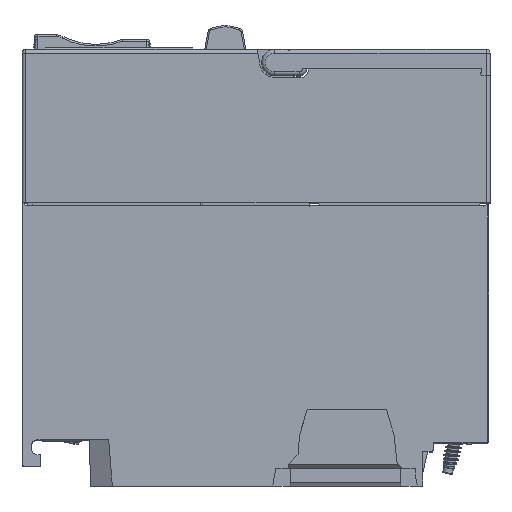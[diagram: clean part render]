
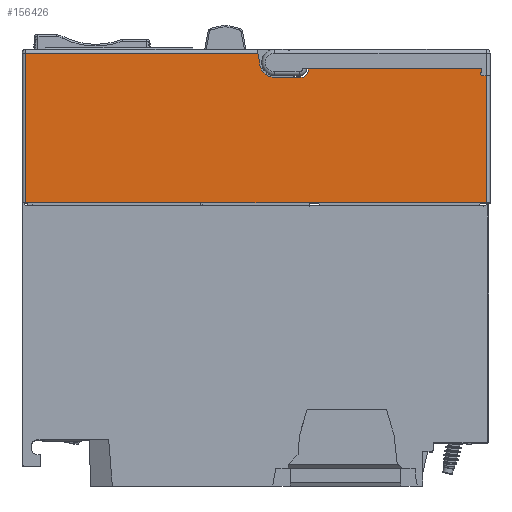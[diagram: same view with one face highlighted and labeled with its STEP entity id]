
A CAD part, top view. The second image highlights one B-rep face of the part: STEP entity #156426.
In plain terms, the highlighted planar face has unit normal (0, 0, 1).
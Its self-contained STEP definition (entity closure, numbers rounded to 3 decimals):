
#145177=DIRECTION('',(0.174,-0.985,0.));
#145178=VECTOR('',#145177,3.244);
#145179=CARTESIAN_POINT('',(0.697,115.6,19.9));
#145180=LINE('',#145179,#145178);
#145181=CARTESIAN_POINT('',(5.2,113.1,19.9));
#145182=DIRECTION('',(0.,0.,1.));
#145183=DIRECTION('',(-0.985,-0.174,0.));
#145184=AXIS2_PLACEMENT_3D('',#145181,#145182,#145183);
#145186=DIRECTION('',(1.,0.,0.));
#145187=VECTOR('',#145186,7.);
#145188=CARTESIAN_POINT('',(5.2,109.1,19.9));
#145189=LINE('',#145188,#145187);
#145190=CARTESIAN_POINT('',(12.2,111.1,19.9));
#145191=DIRECTION('',(0.,0.,1.));
#145192=DIRECTION('',(0.,-1.,0.));
#145193=AXIS2_PLACEMENT_3D('',#145190,#145191,#145192);
#145195=DIRECTION('',(0.,1.,0.));
#145196=VECTOR('',#145195,0.4);
#145197=CARTESIAN_POINT('',(14.2,111.1,19.9));
#145198=LINE('',#145197,#145196);
#145199=DIRECTION('',(1.,0.,0.));
#145200=VECTOR('',#145199,46.096);
#145201=CARTESIAN_POINT('',(14.2,111.5,19.9));
#145202=LINE('',#145201,#145200);
#145203=DIRECTION('',(0.087,-0.996,0.));
#145204=VECTOR('',#145203,1.016);
#145205=CARTESIAN_POINT('',(60.296,111.5,19.9));
#145206=LINE('',#145205,#145204);
#145207=CARTESIAN_POINT('',(60.7,110.1,19.9));
#145208=DIRECTION('',(0.,0.,1.));
#145209=DIRECTION('',(-0.63,0.776,0.));
#145210=AXIS2_PLACEMENT_3D('',#145207,#145208,#145209);
#145212=DIRECTION('',(1.,0.,0.));
#145213=VECTOR('',#145212,1.);
#145214=CARTESIAN_POINT('',(60.7,109.6,19.9));
#145215=LINE('',#145214,#145213);
#145216=DIRECTION('',(0.,-1.,0.));
#145217=VECTOR('',#145216,34.);
#145218=CARTESIAN_POINT('',(61.7,109.6,19.9));
#145219=LINE('',#145218,#145217);
#145220=DIRECTION('',(1.,0.,0.));
#145221=VECTOR('',#145220,123.);
#145222=CARTESIAN_POINT('',(-61.3,75.6,19.9));
#145223=LINE('',#145222,#145221);
#145224=DIRECTION('',(0.,1.,0.));
#145225=VECTOR('',#145224,40.);
#145226=CARTESIAN_POINT('',(-61.3,75.6,19.9));
#145227=LINE('',#145226,#145225);
#145228=DIRECTION('',(1.,0.,0.));
#145229=VECTOR('',#145228,61.997);
#145230=CARTESIAN_POINT('',(-61.3,115.6,19.9));
#145231=LINE('',#145230,#145229);
#153433=CARTESIAN_POINT('',(0.697,115.6,19.9));
#153434=CARTESIAN_POINT('',(1.261,112.405,19.9));
#153435=VERTEX_POINT('',#153433);
#153436=VERTEX_POINT('',#153434);
#153437=CARTESIAN_POINT('',(14.2,111.5,19.9));
#153438=CARTESIAN_POINT('',(14.2,111.1,19.9));
#153439=VERTEX_POINT('',#153437);
#153440=VERTEX_POINT('',#153438);
#153441=CARTESIAN_POINT('',(60.296,111.5,19.9));
#153442=VERTEX_POINT('',#153441);
#153443=CARTESIAN_POINT('',(60.385,110.488,19.9));
#153444=VERTEX_POINT('',#153443);
#153445=CARTESIAN_POINT('',(60.7,109.6,19.9));
#153446=VERTEX_POINT('',#153445);
#153447=CARTESIAN_POINT('',(61.7,109.6,19.9));
#153448=VERTEX_POINT('',#153447);
#153493=CARTESIAN_POINT('',(-61.3,75.6,19.9));
#153494=CARTESIAN_POINT('',(61.7,75.6,19.9));
#153495=VERTEX_POINT('',#153493);
#153496=VERTEX_POINT('',#153494);
#153735=CARTESIAN_POINT('',(-61.3,115.6,19.9));
#153736=VERTEX_POINT('',#153735);
#153977=CARTESIAN_POINT('',(12.2,109.1,19.9));
#153978=CARTESIAN_POINT('',(5.2,109.1,19.9));
#153979=VERTEX_POINT('',#153977);
#153980=VERTEX_POINT('',#153978);
#156393=CARTESIAN_POINT('',(62.7,116.6,19.9));
#156394=DIRECTION('',(0.,0.,-1.));
#156395=DIRECTION('',(-1.,0.,0.));
#156396=AXIS2_PLACEMENT_3D('',#156393,#156394,#156395);
#156397=PLANE('',#156396);
#156399=ORIENTED_EDGE('',*,*,#156398,.T.);
#156401=ORIENTED_EDGE('',*,*,#156400,.T.);
#156403=ORIENTED_EDGE('',*,*,#156402,.T.);
#156405=ORIENTED_EDGE('',*,*,#156404,.T.);
#156407=ORIENTED_EDGE('',*,*,#156406,.T.);
#156409=ORIENTED_EDGE('',*,*,#156408,.T.);
#156411=ORIENTED_EDGE('',*,*,#156410,.T.);
#156413=ORIENTED_EDGE('',*,*,#156412,.T.);
#156415=ORIENTED_EDGE('',*,*,#156414,.T.);
#156417=ORIENTED_EDGE('',*,*,#156416,.T.);
#156419=ORIENTED_EDGE('',*,*,#156418,.F.);
#156421=ORIENTED_EDGE('',*,*,#156420,.T.);
#156423=ORIENTED_EDGE('',*,*,#156422,.T.);
#156424=EDGE_LOOP('',(#156399,#156401,#156403,#156405,#156407,#156409,#156411,
#156413,#156415,#156417,#156419,#156421,#156423));
#156425=FACE_OUTER_BOUND('',#156424,.F.);
#156426=ADVANCED_FACE('',(#156425),#156397,.F.);
#145185=CIRCLE('',#145184,4.);
#145194=CIRCLE('',#145193,2.);
#145211=CIRCLE('',#145210,0.5);
#156398=EDGE_CURVE('',#153435,#153436,#145180,.T.);
#156400=EDGE_CURVE('',#153436,#153980,#145185,.T.);
#156402=EDGE_CURVE('',#153980,#153979,#145189,.T.);
#156404=EDGE_CURVE('',#153979,#153440,#145194,.T.);
#156406=EDGE_CURVE('',#153440,#153439,#145198,.T.);
#156408=EDGE_CURVE('',#153439,#153442,#145202,.T.);
#156410=EDGE_CURVE('',#153442,#153444,#145206,.T.);
#156412=EDGE_CURVE('',#153444,#153446,#145211,.T.);
#156414=EDGE_CURVE('',#153446,#153448,#145215,.T.);
#156416=EDGE_CURVE('',#153448,#153496,#145219,.T.);
#156418=EDGE_CURVE('',#153495,#153496,#145223,.T.);
#156420=EDGE_CURVE('',#153495,#153736,#145227,.T.);
#156422=EDGE_CURVE('',#153736,#153435,#145231,.T.);
